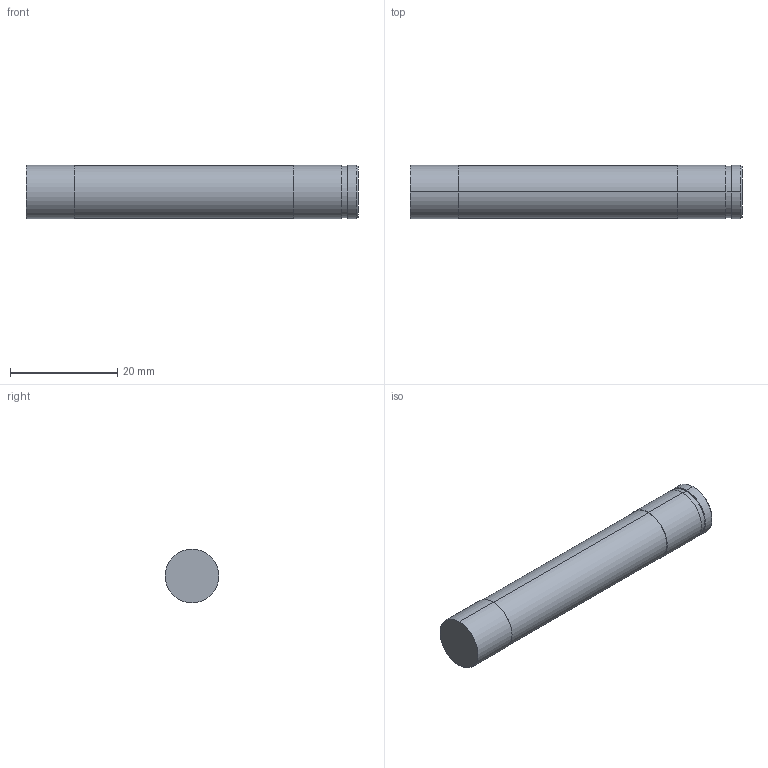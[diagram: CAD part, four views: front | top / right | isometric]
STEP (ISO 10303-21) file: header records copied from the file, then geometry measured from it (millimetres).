
FILE_DESCRIPTION (( 'STEP AP203' ), '1' );
FILE_NAME ('S7-10.STEP', '2002-08-16T10:51:35', ( '.' ), ( '.' ), 'SwSTEP 2.0', 'SolidWorks 2001340', '' );
FILE_SCHEMA (( 'CONFIG_CONTROL_DESIGN' ));
Length unit declared in the file: millimetre
Products named in the file (1): S7-10
Bounding box: 62 x 10 x 10 mm (x, y, z)
Volume: 4734.6 mm3; surface area: 2092.5 mm2
Topology: 1 solids, 1 shells, 18 faces, 34 edges, 22 vertices
Faces by surface type: cylinder 10, plane 6, cone 2
Entity records: 541 total; most frequent: DIRECTION 94, CARTESIAN_POINT 75, ORIENTED_EDGE 68, AXIS2_PLACEMENT_3D 41, EDGE_CURVE 34, EDGE_LOOP 22, VERTEX_POINT 22, CIRCLE 22
